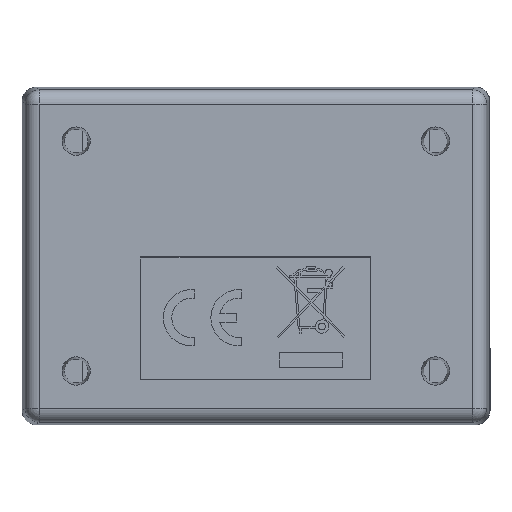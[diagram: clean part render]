
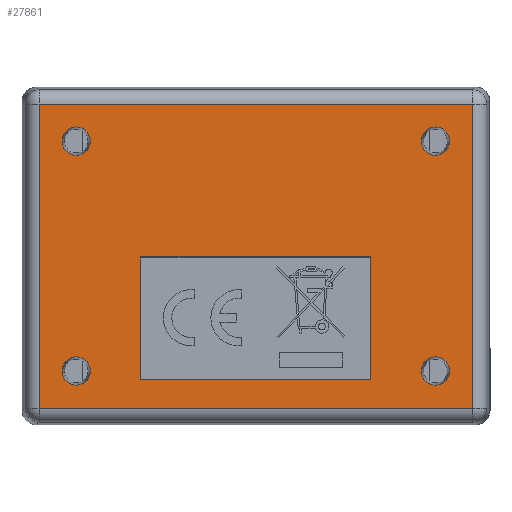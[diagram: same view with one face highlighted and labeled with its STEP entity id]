
A CAD part, front view. The second image highlights one B-rep face of the part: STEP entity #27861.
In plain terms, the highlighted planar face has unit normal (0, -1, 0) as drawn and (0, 0, -1) by its records, which use the part's own axes.
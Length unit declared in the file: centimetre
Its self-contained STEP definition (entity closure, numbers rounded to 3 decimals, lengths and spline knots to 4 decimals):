
#9348=CIRCLE('',#28929,0.1249);
#9349=CIRCLE('',#28930,0.1249);
#9350=CIRCLE('',#28931,0.1249);
#9351=CIRCLE('',#28932,0.1249);
#10474=VERTEX_POINT('',#35955);
#10475=VERTEX_POINT('',#35957);
#10477=VERTEX_POINT('',#35963);
#10479=VERTEX_POINT('',#35969);
#10600=VERTEX_POINT('',#37041);
#10601=VERTEX_POINT('',#37043);
#10602=VERTEX_POINT('',#37045);
#10603=VERTEX_POINT('',#37047);
#10604=VERTEX_POINT('',#37049);
#10605=VERTEX_POINT('',#37050);
#10606=VERTEX_POINT('',#37052);
#10607=VERTEX_POINT('',#37054);
#12486=VECTOR('',#30928,1.);
#12489=VECTOR('',#30932,1.);
#12492=VECTOR('',#30936,1.);
#12495=VECTOR('',#30940,1.);
#12656=VECTOR('',#31173,1.);
#12657=VECTOR('',#31174,1.);
#12658=VECTOR('',#31175,1.);
#12659=VECTOR('',#31176,1.);
#14760=LINE('',#35956,#12486);
#14763=LINE('',#35962,#12489);
#14766=LINE('',#35968,#12492);
#14769=LINE('',#35973,#12495);
#14930=LINE('',#37048,#12656);
#14931=LINE('',#37051,#12657);
#14932=LINE('',#37053,#12658);
#14933=LINE('',#37055,#12659);
#17125=EDGE_CURVE('',#10475,#10474,#14760,.F.);
#17128=EDGE_CURVE('',#10477,#10475,#14763,.F.);
#17131=EDGE_CURVE('',#10479,#10477,#14766,.F.);
#17134=EDGE_CURVE('',#10474,#10479,#14769,.F.);
#17315=EDGE_CURVE('',#10600,#10600,#9348,.F.);
#17316=EDGE_CURVE('',#10601,#10601,#9349,.F.);
#17317=EDGE_CURVE('',#10602,#10602,#9350,.F.);
#17318=EDGE_CURVE('',#10603,#10603,#9351,.F.);
#17319=EDGE_CURVE('',#10604,#10605,#14930,.T.);
#17320=EDGE_CURVE('',#10606,#10604,#14931,.T.);
#17321=EDGE_CURVE('',#10607,#10606,#14932,.T.);
#17322=EDGE_CURVE('',#10605,#10607,#14933,.T.);
#20991=ORIENTED_EDGE('',*,*,#17315,.T.);
#20992=ORIENTED_EDGE('',*,*,#17316,.T.);
#20993=ORIENTED_EDGE('',*,*,#17317,.T.);
#20994=ORIENTED_EDGE('',*,*,#17318,.T.);
#20995=ORIENTED_EDGE('',*,*,#17319,.F.);
#20996=ORIENTED_EDGE('',*,*,#17320,.F.);
#20997=ORIENTED_EDGE('',*,*,#17321,.F.);
#20998=ORIENTED_EDGE('',*,*,#17322,.F.);
#20999=ORIENTED_EDGE('',*,*,#17125,.T.);
#21000=ORIENTED_EDGE('',*,*,#17134,.T.);
#21001=ORIENTED_EDGE('',*,*,#17131,.T.);
#21002=ORIENTED_EDGE('',*,*,#17128,.T.);
#25541=EDGE_LOOP('',(#20991));
#25542=EDGE_LOOP('',(#20992));
#25543=EDGE_LOOP('',(#20993));
#25544=EDGE_LOOP('',(#20994));
#25545=EDGE_LOOP('',(#20995,#20996,#20997,#20998));
#25546=EDGE_LOOP('',(#20999,#21000,#21001,#21002));
#26712=FACE_BOUND('',#25541,.T.);
#26713=FACE_BOUND('',#25542,.T.);
#26714=FACE_BOUND('',#25543,.T.);
#26715=FACE_BOUND('',#25544,.T.);
#26716=FACE_BOUND('',#25545,.T.);
#26717=FACE_BOUND('',#25546,.T.);
#27861=ADVANCED_FACE('',(#26712,#26713,#26714,#26715,#26716,#26717),#43890,
 .F.);
#28928=AXIS2_PLACEMENT_3D('',#37039,#31164,$);
#28929=AXIS2_PLACEMENT_3D('',#37040,#31165,#31166);
#28930=AXIS2_PLACEMENT_3D('',#37042,#31167,#31168);
#28931=AXIS2_PLACEMENT_3D('',#37044,#31169,#31170);
#28932=AXIS2_PLACEMENT_3D('',#37046,#31171,#31172);
#30928=DIRECTION('',(-1.,0.,0.));
#30932=DIRECTION('',(0.,1.,0.));
#30936=DIRECTION('',(1.,0.,0.));
#30940=DIRECTION('',(0.,-1.,0.));
#31164=DIRECTION('',(0.,0.,1.));
#31165=DIRECTION('',(0.,0.,-1.));
#31166=DIRECTION('',(-0.125,0.,0.));
#31167=DIRECTION('',(0.,0.,-1.));
#31168=DIRECTION('',(-0.125,0.,0.));
#31169=DIRECTION('',(0.,0.,-1.));
#31170=DIRECTION('',(-0.125,0.,0.));
#31171=DIRECTION('',(0.,0.,-1.));
#31172=DIRECTION('',(-0.125,0.,0.));
#31173=DIRECTION('',(-1.,0.,0.));
#31174=DIRECTION('',(0.,1.,0.));
#31175=DIRECTION('',(1.,0.,0.));
#31176=DIRECTION('',(0.,-1.,0.));
#35955=CARTESIAN_POINT('',(1.091,-1.0176,-0.0032));
#35956=CARTESIAN_POINT('',(0.1374,-1.0176,-0.0032));
#35957=CARTESIAN_POINT('',(0.0083,-1.0176,-0.0032));
#35962=CARTESIAN_POINT('',(0.0083,0.,-0.0032));
#35963=CARTESIAN_POINT('',(0.0083,1.0176,-0.0032));
#35968=CARTESIAN_POINT('',(0.1374,1.0176,-0.0032));
#35969=CARTESIAN_POINT('',(1.091,1.0176,-0.0032));
#35973=CARTESIAN_POINT('',(1.091,0.,-0.0032));
#37039=CARTESIAN_POINT('',(0.,0.,-0.0032));
#37040=CARTESIAN_POINT('',(1.016,1.5875,-0.0032));
#37041=CARTESIAN_POINT('',(1.1409,1.5875,-0.0032));
#37042=CARTESIAN_POINT('',(1.016,-1.5875,-0.0032));
#37043=CARTESIAN_POINT('',(1.1409,-1.5875,-0.0032));
#37044=CARTESIAN_POINT('',(-1.016,-1.5875,-0.0032));
#37045=CARTESIAN_POINT('',(-0.8911,-1.5875,-0.0032));
#37046=CARTESIAN_POINT('',(-1.016,1.5875,-0.0032));
#37047=CARTESIAN_POINT('',(-0.8911,1.5875,-0.0032));
#37048=CARTESIAN_POINT('',(0.,1.9149,-0.0032));
#37049=CARTESIAN_POINT('',(1.3434,1.9149,-0.0032));
#37050=CARTESIAN_POINT('',(-1.3434,1.9149,-0.0032));
#37051=CARTESIAN_POINT('',(1.3434,0.,-0.0032));
#37052=CARTESIAN_POINT('',(1.3434,-1.9149,-0.0032));
#37053=CARTESIAN_POINT('',(0.,-1.9149,-0.0032));
#37054=CARTESIAN_POINT('',(-1.3434,-1.9149,-0.0032));
#37055=CARTESIAN_POINT('',(-1.3434,0.,-0.0032));
#43890=PLANE('',#28928);
